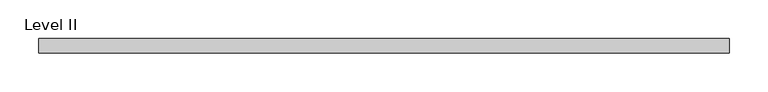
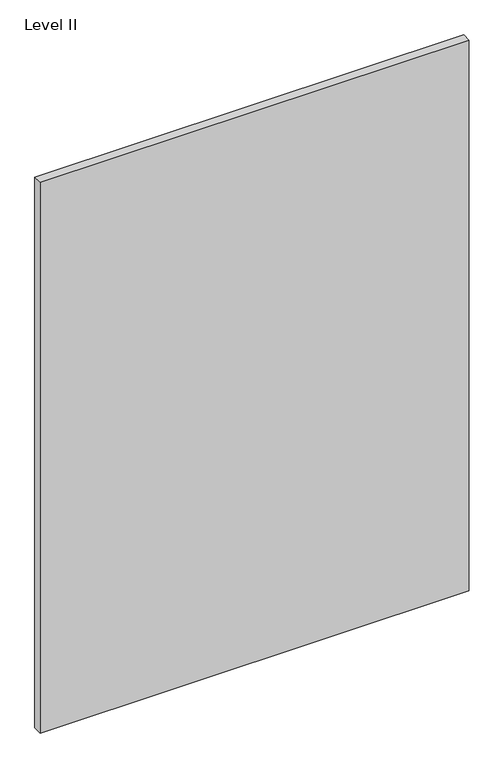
"""IFC4 building model written with IfcOpenShell, lengths in millimetres: proxy geometry, Panel-Fascia-Teknion-Altos : Level II."""

from ifc_helpers import new_model, si_unit, frame, origin, place, context, project, spatial, polyline, outline, extrude, source, transform, mapped, element, save


def level_ii_766fe766(model_context):
    return source(origin(), model_context, "Body", "SweptSolid", [
        extrude(outline(polyline([(447.0356344, 9.525), (447.0356344, -9.525), (-447.0356344, -9.525), (-447.0356344, 9.525), (447.0356344, 9.525)])), frame((0.0, 0.0, 3.175), z_axis=(0.0, 0.0, 1.0), x_axis=(1.0, 0.0, 0.0)), (0.0, 0.0, 1.0), 1212.85),
    ])


if __name__ == "__main__":
    model = new_model("IFC4")
    model_context = context("Model", 3, world=origin())
    ifc_project = project(units=[si_unit("LENGTHUNIT", "METRE", prefix="MILLI")], contexts=[model_context])
    site = spatial("IfcSite", under=ifc_project)
    building = spatial("IfcBuilding", under=site)
    placement = place(None, origin())
    level_ii_shape = level_ii_766fe766(model_context)
    element("IfcBuildingElementProxy", 1, Name="Panel-Fascia-Teknion-Altos : Level II", ObjectType="Panel-Fascia-Teknion-Altos : Level II", at=placement, inside=building, context=model_context, shape_type="MappedRepresentation", body=[
        mapped(level_ii_shape, transform((0.0, 0.0, 0.0), x_axis=(1.0, 0.0, 0.0), y_axis=(0.0, 1.0, 0.0), z_axis=(0.0, 0.0, 1.0))),
    ])
    save(model, "model.ifc")
